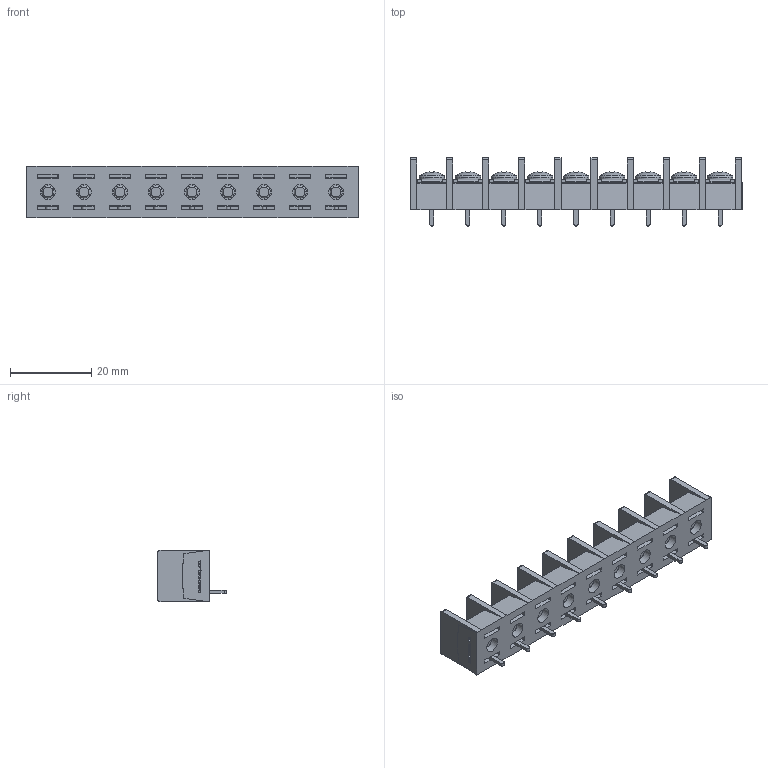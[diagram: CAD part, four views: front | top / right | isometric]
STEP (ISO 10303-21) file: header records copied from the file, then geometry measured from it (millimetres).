
FILE_DESCRIPTION(/* description */ ('Alibre Inc.'),/* implementation_level */ '2;1');
FILE_NAME(/* name */ 'export0',/* time_stamp */ '2015-10-20T08:16:05+09:00',/* author */ (''),/* organization */ (''),/* preprocessor_version */ 'ST-DEVELOPER v14',/* originating_system */ 'Alibre',/* authorisation */ '');
FILE_SCHEMA (('CONFIG_CONTROL_DESIGN'));
Length unit declared in the file: centimetre
Products named in the file (1): ID_1
Bounding box: 81.92 x 16.8 x 12.8 mm (x, y, z)
Volume: 7608.1 mm3; surface area: 9473.8 mm2
Topology: 1 solids, 154 shells, 2919 faces, 7493 edges, 4958 vertices
Faces by surface type: plane 2183, bspline 572, cylinder 92, cone 45, torus 18, sphere 9
Full cylindrical faces by diameter (mm): 3 x18, 3.7 x9, 4.6 x9, 6.3 x9
Entity records: 84252 total; most frequent: CARTESIAN_POINT 20396, ORIENTED_EDGE 14788, DIRECTION 8806, EDGE_CURVE 7394, VECTOR 5695, LINE 5695, VERTEX_POINT 4931, EDGE_LOOP 3193
